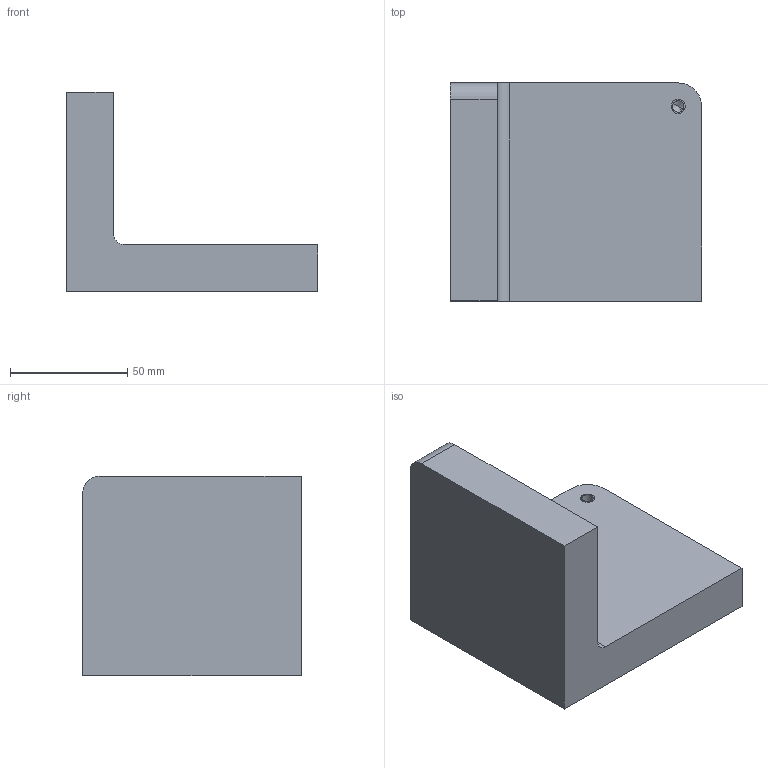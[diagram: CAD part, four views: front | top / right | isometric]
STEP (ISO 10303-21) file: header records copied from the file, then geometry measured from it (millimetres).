
FILE_DESCRIPTION(('CATIA V5 STEP Exchange'),'2;1');
FILE_NAME('C:\_Andres\UNIVERSIDAD\IQS\ASIGNATURAS\DAO\EXF\EXF-16172c\2inicio\Carreras_Buscato_Ej01_v7.stp','2017-03-05T15:11:04+00:00',('none'),('none'),'CATIA Version 5-6 Release 2014 SP1 HF18','CATIA V5 STEP AP203','none');
FILE_SCHEMA(('CONFIG_CONTROL_DESIGN'));
Length unit declared in the file: millimetre
Products named in the file (1): Carreras_Buscato_Ej01_v7
Bounding box: 107 x 93 x 85 mm (x, y, z)
Volume: 319466.6 mm3; surface area: 42669.6 mm2
Topology: 1 solids, 2 shells, 17 faces, 43 edges, 27 vertices
Faces by surface type: plane 8, cylinder 7, cone 2
Entity records: 513 total; most frequent: CARTESIAN_POINT 83, ORIENTED_EDGE 78, DIRECTION 69, EDGE_CURVE 41, AXIS2_PLACEMENT_3D 29, VECTOR 27, LINE 27, VERTEX_POINT 27
